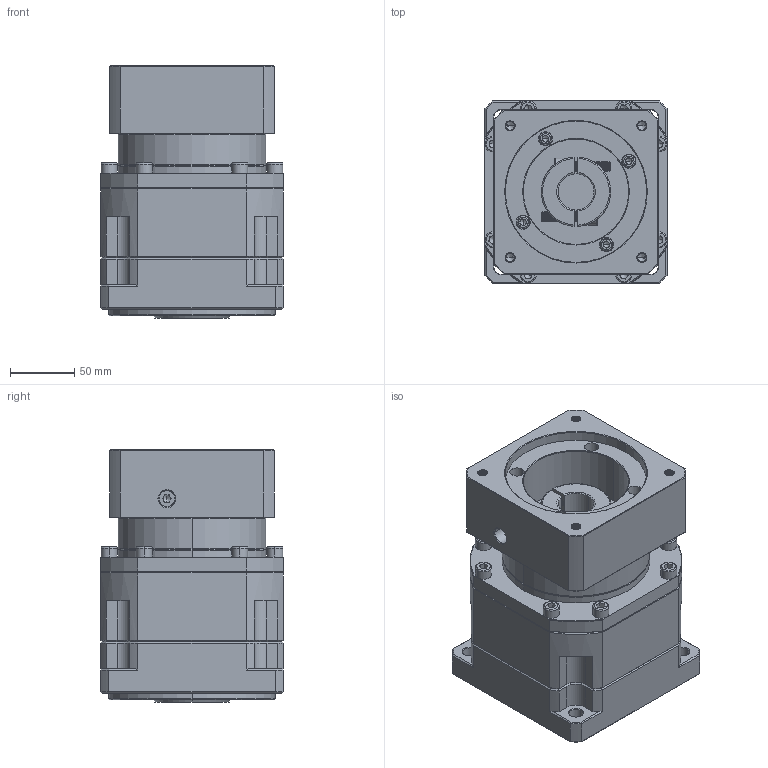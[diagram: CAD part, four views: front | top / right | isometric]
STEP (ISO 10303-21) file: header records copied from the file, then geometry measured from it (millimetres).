
FILE_DESCRIPTION (( 'STEP AP214' ), '1' );
FILE_NAME ('ZB142A-K35-L1-P2-28-110-145-M8.step', '2023-09-01T11:45:32', ( '' ), ( '' ), 'SwSTEP 2.0', 'SolidWorks 2016', '' );
FILE_SCHEMA (( 'AUTOMOTIVE_DESIGN' ));
Length unit declared in the file: millimetre
Products named in the file (1): ZB142A-K35-L1-P2-28-110-145-M8
Bounding box: 142 x 142 x 196.3 mm (x, y, z)
Volume: 2814604.5 mm3; surface area: 278335.1 mm2
Topology: 7 solids, 7 shells, 2499 faces, 6567 edges, 4194 vertices
Faces by surface type: plane 1191, cylinder 476, bspline 401, cone 375, torus 56
Entity records: 134281 total; most frequent: CARTESIAN_POINT 48352, ORIENTED_EDGE 13030, DIRECTION 10652, EDGE_CURVE 6515, VERTEX_POINT 4194, LINE 4158, VECTOR 4158, AXIS2_PLACEMENT_3D 3247
